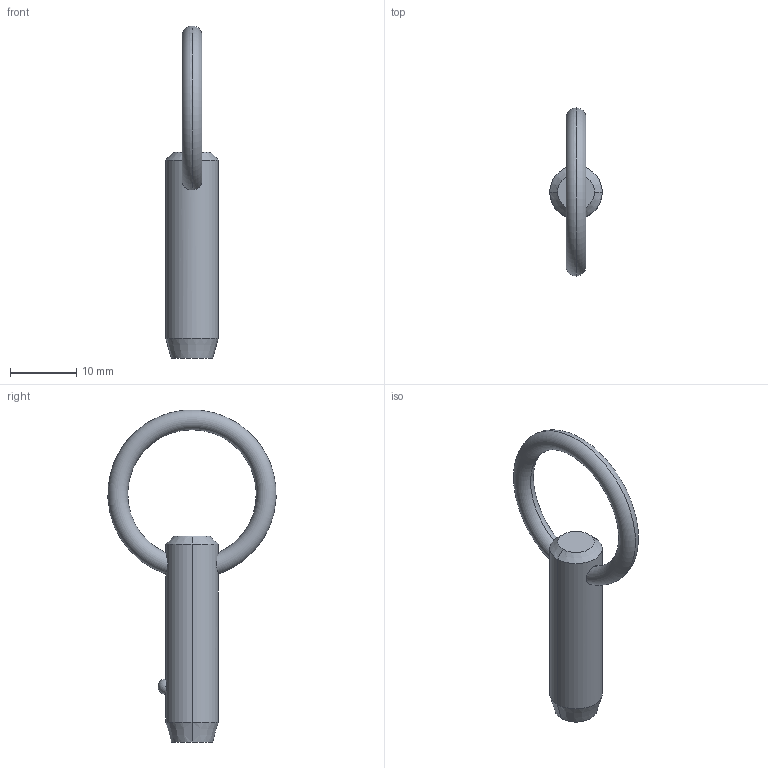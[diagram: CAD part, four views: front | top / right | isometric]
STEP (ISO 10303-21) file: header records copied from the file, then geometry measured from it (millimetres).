
FILE_DESCRIPTION (( 'STEP AP203' ), '1' );
FILE_NAME ('P1250.031-060.step', '2019-07-29T19:47:18', ( '' ), ( '' ), 'SwSTEP 2.0', 'SolidWorks 2017', '' );
FILE_SCHEMA (( 'CONFIG_CONTROL_DESIGN' ));
Length unit declared in the file: millimetre
Products named in the file (1): P1250.031-060
Bounding box: 7.93 x 25.36 x 50.1 mm (x, y, z)
Volume: 1935 mm3; surface area: 1409.4 mm2
Topology: 1 solids, 1 shells, 12 faces, 28 edges, 17 vertices
Faces by surface type: cone 4, torus 2, sphere 2, cylinder 2, plane 2
Entity records: 509 total; most frequent: CARTESIAN_POINT 176, DIRECTION 56, ORIENTED_EDGE 48, AXIS2_PLACEMENT_3D 25, EDGE_CURVE 24, EDGE_LOOP 15, VERTEX_POINT 15, FACE_OUTER_BOUND 12
